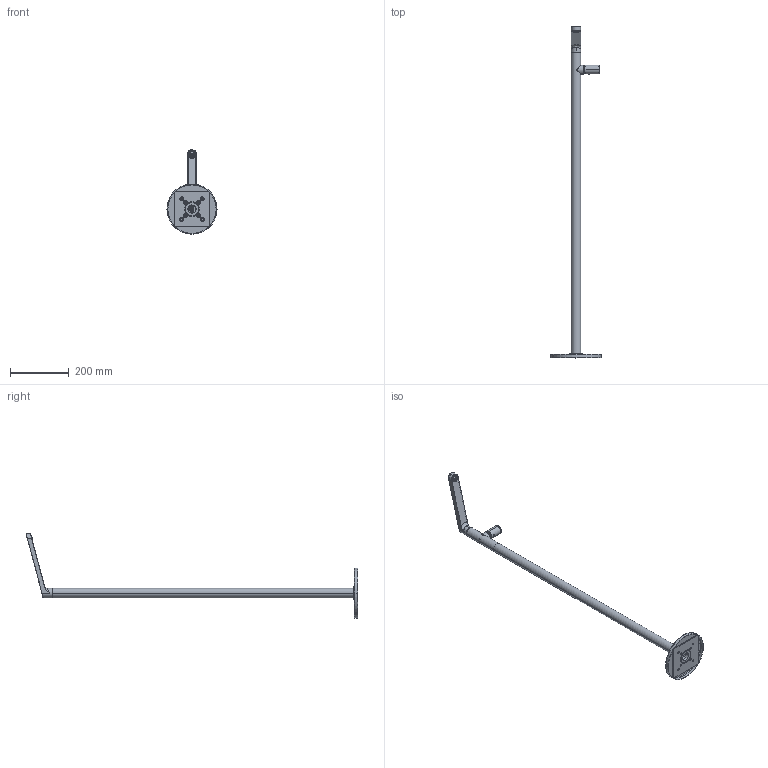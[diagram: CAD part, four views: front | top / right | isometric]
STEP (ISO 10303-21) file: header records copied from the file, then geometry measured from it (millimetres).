
FILE_DESCRIPTION((''),'2;1');
FILE_NAME('F4171_FILE_3D','2014-02-04T',('ivanv'),(''),'PRO/ENGINEER BY PARAMETRIC TECHNOLOGY CORPORATION, 2012130','PRO/ENGINEER BY PARAMETRIC TECHNOLOGY CORPORATION, 2012130','');
FILE_SCHEMA(('CONFIG_CONTROL_DESIGN'));
Length unit declared in the file: millimetre
Products named in the file (1): F4171_FILE_3D
Bounding box: 170 x 1125.4 x 286 mm (x, y, z)
Volume: 407693.6 mm3; surface area: 334653.5 mm2
Topology: 5 solids, 5 shells, 423 faces, 1046 edges, 625 vertices
Faces by surface type: cylinder 141, plane 107, cone 99, bspline 35, torus 32, sphere 9
Entity records: 17739 total; most frequent: CARTESIAN_POINT 7898, DIRECTION 2062, ORIENTED_EDGE 2052, EDGE_CURVE 1026, AXIS2_PLACEMENT_3D 839, VERTEX_POINT 625, EDGE_LOOP 479, CIRCLE 451
